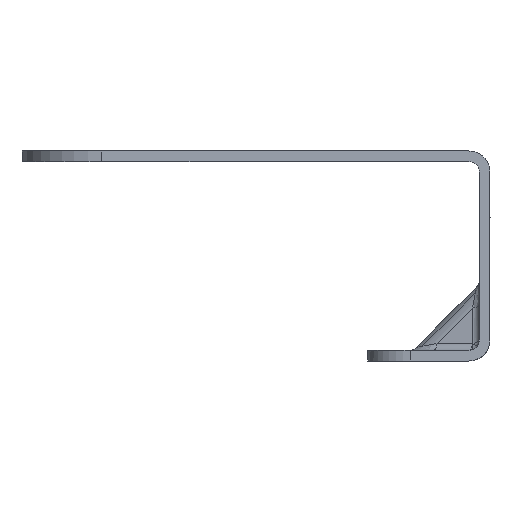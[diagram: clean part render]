
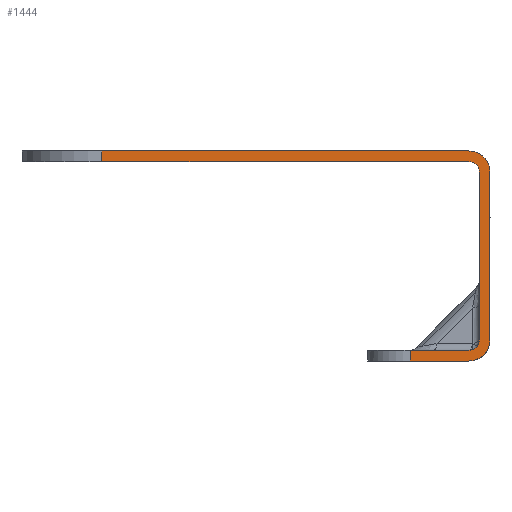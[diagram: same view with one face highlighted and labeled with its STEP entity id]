
A CAD part, front view. The second image highlights one B-rep face of the part: STEP entity #1444.
In plain terms, the highlighted planar face has unit normal (0, -1, 0).
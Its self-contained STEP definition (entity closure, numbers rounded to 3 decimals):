
#622=AXIS2_PLACEMENT_3D('Circle Axis2P3D',#620,#621,$) ;
#1305=AXIS2_PLACEMENT_3D('Circle Axis2P3D',#1303,#1304,$) ;
#1333=AXIS2_PLACEMENT_3D('Plane Axis2P3D',#1330,#1331,#1332) ;
#1353=AXIS2_PLACEMENT_3D('Circle Axis2P3D',#1351,#1352,$) ;
#1418=AXIS2_PLACEMENT_3D('Circle Axis2P3D',#1416,#1417,$) ;
#43=CARTESIAN_POINT('Vertex',(1471.999,-738.999,78.)) ;
#152=CARTESIAN_POINT('Vertex',(1471.999,-738.999,46.5)) ;
#155=CARTESIAN_POINT('Line Origine',(1471.999,-738.999,62.25)) ;
#620=CARTESIAN_POINT('Axis2P3D Location',(1469.999,-738.999,78.)) ;
#624=CARTESIAN_POINT('Vertex',(1471.413,-738.999,79.414)) ;
#1298=CARTESIAN_POINT('Vertex',(1471.413,-738.999,45.086)) ;
#1303=CARTESIAN_POINT('Axis2P3D Location',(1469.999,-738.999,46.5)) ;
#1330=CARTESIAN_POINT('Axis2P3D Location',(1385.999,-738.999,20.)) ;
#1335=CARTESIAN_POINT('Line Origine',(1400.999,-738.999,81.)) ;
#1339=CARTESIAN_POINT('Vertex',(1400.999,-738.999,82.)) ;
#1341=CARTESIAN_POINT('Vertex',(1400.999,-738.999,80.)) ;
#1344=CARTESIAN_POINT('Line Origine',(1435.499,-738.999,80.)) ;
#1348=CARTESIAN_POINT('Vertex',(1469.999,-738.999,80.)) ;
#1351=CARTESIAN_POINT('Axis2P3D Location',(1469.999,-738.999,78.)) ;
#1357=CARTESIAN_POINT('Control Point',(1471.413,-738.999,45.086)) ;
#1358=CARTESIAN_POINT('Control Point',(1471.28,-738.999,44.953)) ;
#1359=CARTESIAN_POINT('Control Point',(1471.131,-738.999,44.835)) ;
#1360=CARTESIAN_POINT('Control Point',(1470.969,-738.999,44.736)) ;
#1361=CARTESIAN_POINT('Control Point',(1470.682,-738.999,44.603)) ;
#1362=CARTESIAN_POINT('Control Point',(1470.375,-738.999,44.53)) ;
#1363=CARTESIAN_POINT('Control Point',(1470.25,-738.999,44.51)) ;
#1364=CARTESIAN_POINT('Control Point',(1470.125,-738.999,44.5)) ;
#1365=CARTESIAN_POINT('Control Point',(1469.999,-738.999,44.5)) ;
#1366=CARTESIAN_POINT('Vertex',(1469.999,-738.999,44.5)) ;
#1369=CARTESIAN_POINT('Line Origine',(1464.499,-738.999,44.5)) ;
#1373=CARTESIAN_POINT('Vertex',(1458.999,-738.999,44.5)) ;
#1376=CARTESIAN_POINT('Line Origine',(1458.999,-738.999,43.5)) ;
#1380=CARTESIAN_POINT('Vertex',(1458.999,-738.999,42.5)) ;
#1383=CARTESIAN_POINT('Line Origine',(1464.499,-738.999,42.5)) ;
#1387=CARTESIAN_POINT('Vertex',(1469.999,-738.999,42.5)) ;
#1391=CARTESIAN_POINT('Control Point',(1473.999,-738.999,46.5)) ;
#1392=CARTESIAN_POINT('Control Point',(1473.999,-738.999,46.108)) ;
#1393=CARTESIAN_POINT('Control Point',(1473.951,-738.999,45.716)) ;
#1394=CARTESIAN_POINT('Control Point',(1473.855,-738.999,45.332)) ;
#1395=CARTESIAN_POINT('Control Point',(1473.571,-738.999,44.595)) ;
#1396=CARTESIAN_POINT('Control Point',(1473.118,-738.999,43.949)) ;
#1397=CARTESIAN_POINT('Control Point',(1472.852,-738.999,43.655)) ;
#1398=CARTESIAN_POINT('Control Point',(1472.255,-738.999,43.139)) ;
#1399=CARTESIAN_POINT('Control Point',(1471.55,-738.999,42.782)) ;
#1400=CARTESIAN_POINT('Control Point',(1471.178,-738.999,42.647)) ;
#1401=CARTESIAN_POINT('Control Point',(1470.713,-738.999,42.542)) ;
#1402=CARTESIAN_POINT('Control Point',(1470.242,-738.999,42.506)) ;
#1403=CARTESIAN_POINT('Control Point',(1470.161,-738.999,42.502)) ;
#1404=CARTESIAN_POINT('Control Point',(1470.08,-738.999,42.5)) ;
#1405=CARTESIAN_POINT('Control Point',(1469.999,-738.999,42.5)) ;
#1406=CARTESIAN_POINT('Vertex',(1473.999,-738.999,46.5)) ;
#1409=CARTESIAN_POINT('Line Origine',(1473.999,-738.999,62.25)) ;
#1413=CARTESIAN_POINT('Vertex',(1473.999,-738.999,78.)) ;
#1416=CARTESIAN_POINT('Axis2P3D Location',(1469.999,-738.999,78.)) ;
#1420=CARTESIAN_POINT('Vertex',(1469.999,-738.999,82.)) ;
#1423=CARTESIAN_POINT('Line Origine',(1435.499,-738.999,82.)) ;
#156=DIRECTION('Vector Direction',(0.,0.,1.)) ;
#621=DIRECTION('Axis2P3D Direction',(0.,-1.,0.)) ;
#1304=DIRECTION('Axis2P3D Direction',(0.,1.,0.)) ;
#1331=DIRECTION('Axis2P3D Direction',(0.,-1.,0.)) ;
#1332=DIRECTION('Axis2P3D XDirection',(1.,0.,0.)) ;
#1336=DIRECTION('Vector Direction',(0.,0.,-1.)) ;
#1345=DIRECTION('Vector Direction',(1.,0.,0.)) ;
#1352=DIRECTION('Axis2P3D Direction',(0.,-1.,0.)) ;
#1370=DIRECTION('Vector Direction',(-1.,0.,0.)) ;
#1377=DIRECTION('Vector Direction',(0.,0.,-1.)) ;
#1384=DIRECTION('Vector Direction',(1.,0.,0.)) ;
#1410=DIRECTION('Vector Direction',(0.,0.,-1.)) ;
#1417=DIRECTION('Axis2P3D Direction',(0.,-1.,0.)) ;
#1424=DIRECTION('Vector Direction',(1.,0.,0.)) ;
#157=VECTOR('Line Direction',#156,1.) ;
#1337=VECTOR('Line Direction',#1336,1.) ;
#1346=VECTOR('Line Direction',#1345,1.) ;
#1371=VECTOR('Line Direction',#1370,1.) ;
#1378=VECTOR('Line Direction',#1377,1.) ;
#1385=VECTOR('Line Direction',#1384,1.) ;
#1411=VECTOR('Line Direction',#1410,1.) ;
#1425=VECTOR('Line Direction',#1424,1.) ;
#1429=ORIENTED_EDGE('',*,*,#1343,.T.) ;
#1430=ORIENTED_EDGE('',*,*,#1350,.T.) ;
#1431=ORIENTED_EDGE('',*,*,#1355,.T.) ;
#1432=ORIENTED_EDGE('',*,*,#626,.T.) ;
#1433=ORIENTED_EDGE('',*,*,#159,.T.) ;
#1434=ORIENTED_EDGE('',*,*,#1307,.T.) ;
#1435=ORIENTED_EDGE('',*,*,#1368,.T.) ;
#1436=ORIENTED_EDGE('',*,*,#1375,.T.) ;
#1437=ORIENTED_EDGE('',*,*,#1382,.T.) ;
#1438=ORIENTED_EDGE('',*,*,#1389,.T.) ;
#1439=ORIENTED_EDGE('',*,*,#1408,.F.) ;
#1440=ORIENTED_EDGE('',*,*,#1415,.F.) ;
#1441=ORIENTED_EDGE('',*,*,#1422,.F.) ;
#1442=ORIENTED_EDGE('',*,*,#1427,.T.) ;
#1444=ADVANCED_FACE('\X2\58C1539A65394E3A\X0\2.0',(#1443),#1334,.T.) ;
#1356=B_SPLINE_CURVE_WITH_KNOTS('',5,(#1357,#1358,#1359,#1360,#1361,#1362,#1363,#1364,#1365),.UNSPECIFIED.,.F.,.U.,(6,3,6),(0.,1.333,2.221),.UNSPECIFIED.) ;
#1390=B_SPLINE_CURVE_WITH_KNOTS('',5,(#1391,#1392,#1393,#1394,#1395,#1396,#1397,#1398,#1399,#1400,#1401,#1402,#1403,#1404,#1405),.UNSPECIFIED.,.F.,.U.,(6,3,3,3,6),(0.,2.778,5.555,8.333,8.906),.UNSPECIFIED.) ;
#623=CIRCLE('generated circle',#622,2.) ;
#1306=CIRCLE('generated circle',#1305,2.) ;
#1354=CIRCLE('generated circle',#1353,2.) ;
#1419=CIRCLE('generated circle',#1418,4.) ;
#159=EDGE_CURVE('',#44,#153,#158,.F.) ;
#626=EDGE_CURVE('',#625,#44,#623,.F.) ;
#1307=EDGE_CURVE('',#153,#1299,#1306,.T.) ;
#1343=EDGE_CURVE('',#1340,#1342,#1338,.T.) ;
#1350=EDGE_CURVE('',#1342,#1349,#1347,.T.) ;
#1355=EDGE_CURVE('',#1349,#625,#1354,.F.) ;
#1368=EDGE_CURVE('',#1299,#1367,#1356,.T.) ;
#1375=EDGE_CURVE('',#1367,#1374,#1372,.T.) ;
#1382=EDGE_CURVE('',#1374,#1381,#1379,.T.) ;
#1389=EDGE_CURVE('',#1381,#1388,#1386,.T.) ;
#1408=EDGE_CURVE('',#1407,#1388,#1390,.T.) ;
#1415=EDGE_CURVE('',#1414,#1407,#1412,.T.) ;
#1422=EDGE_CURVE('',#1421,#1414,#1419,.F.) ;
#1427=EDGE_CURVE('',#1421,#1340,#1426,.F.) ;
#1428=EDGE_LOOP('',(#1429,#1430,#1431,#1432,#1433,#1434,#1435,#1436,#1437,#1438,#1439,#1440,#1441,#1442)) ;
#1443=FACE_OUTER_BOUND('',#1428,.T.) ;
#158=LINE('Line',#155,#157) ;
#1338=LINE('Line',#1335,#1337) ;
#1347=LINE('Line',#1344,#1346) ;
#1372=LINE('Line',#1369,#1371) ;
#1379=LINE('Line',#1376,#1378) ;
#1386=LINE('Line',#1383,#1385) ;
#1412=LINE('Line',#1409,#1411) ;
#1426=LINE('Line',#1423,#1425) ;
#1334=PLANE('Plane',#1333) ;
#44=VERTEX_POINT('',#43) ;
#153=VERTEX_POINT('',#152) ;
#625=VERTEX_POINT('',#624) ;
#1299=VERTEX_POINT('',#1298) ;
#1340=VERTEX_POINT('',#1339) ;
#1342=VERTEX_POINT('',#1341) ;
#1349=VERTEX_POINT('',#1348) ;
#1367=VERTEX_POINT('',#1366) ;
#1374=VERTEX_POINT('',#1373) ;
#1381=VERTEX_POINT('',#1380) ;
#1388=VERTEX_POINT('',#1387) ;
#1407=VERTEX_POINT('',#1406) ;
#1414=VERTEX_POINT('',#1413) ;
#1421=VERTEX_POINT('',#1420) ;
